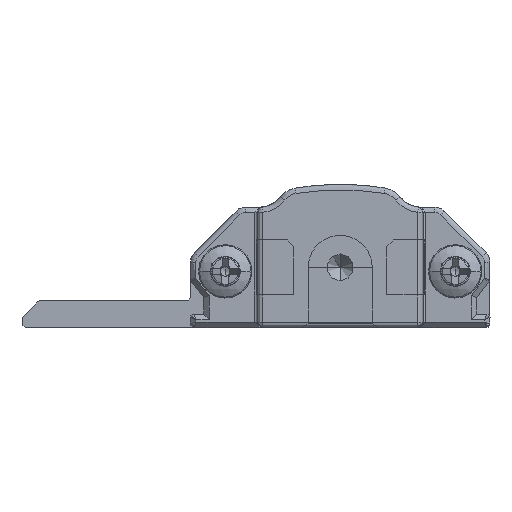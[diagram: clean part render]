
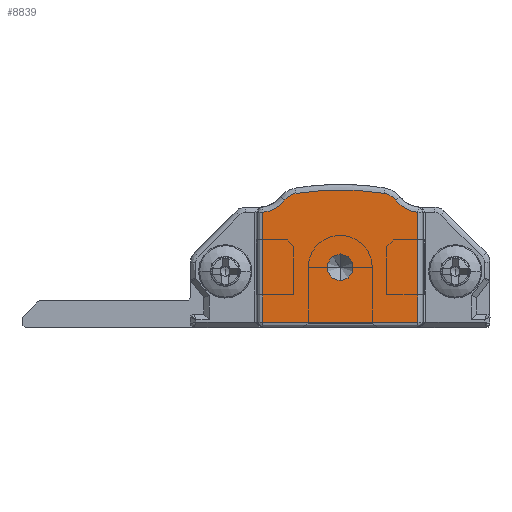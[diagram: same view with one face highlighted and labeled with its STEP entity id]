
A CAD part, front view. The second image highlights one B-rep face of the part: STEP entity #8839.
In plain terms, the highlighted planar face has unit normal (0, -1, 0).
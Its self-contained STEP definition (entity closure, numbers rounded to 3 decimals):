
#133 = DIRECTION ( 'NONE',  ( 0., 0., -1. ) ) ;
#345 = DIRECTION ( 'NONE',  ( 0., -1., 0. ) ) ;
#644 = CARTESIAN_POINT ( 'NONE',  ( 11.2, -15., -10.376 ) ) ;
#780 = VERTEX_POINT ( 'NONE', #27491 ) ;
#1152 = ORIENTED_EDGE ( 'NONE', *, *, #20422, .T. ) ;
#1367 = VERTEX_POINT ( 'NONE', #30880 ) ;
#3657 = ORIENTED_EDGE ( 'NONE', *, *, #22399, .F. ) ;
#4003 = DIRECTION ( 'NONE',  ( 1., 0., 0. ) ) ;
#5104 = DIRECTION ( 'NONE',  ( 0., 0., -1. ) ) ;
#5224 = DIRECTION ( 'NONE',  ( 0., 1., 0. ) ) ;
#5385 = EDGE_LOOP ( 'NONE', ( #20559, #3657 ) ) ;
#6655 = AXIS2_PLACEMENT_3D ( 'NONE', #29565, #5224, #17503 ) ;
#7160 = EDGE_CURVE ( 'NONE', #1367, #9487, #19834, .T. ) ;
#7484 = CARTESIAN_POINT ( 'NONE',  ( 14.3, -15., 8.75 ) ) ;
#7698 = DIRECTION ( 'NONE',  ( 0., 0., 1. ) ) ;
#7747 = DIRECTION ( 'NONE',  ( 0., 0., -1. ) ) ;
#7980 = CIRCLE ( 'NONE', #25759, 1. ) ;
#8085 = CIRCLE ( 'NONE', #15742, 2.4 ) ;
#8300 = EDGE_CURVE ( 'NONE', #19476, #1367, #15804, .T. ) ;
#8440 = ORIENTED_EDGE ( 'NONE', *, *, #7160, .T. ) ;
#8839 = ADVANCED_FACE ( 'NONE', ( #13293, #17642 ), #17945, .T. ) ;
#8866 = AXIS2_PLACEMENT_3D ( 'NONE', #12932, #18048, #27397 ) ;
#9472 = DIRECTION ( 'NONE',  ( 0., 0., -1. ) ) ;
#9487 = VERTEX_POINT ( 'NONE', #19481 ) ;
#9779 = DIRECTION ( 'NONE',  ( 0., 1., 0. ) ) ;
#9962 = CIRCLE ( 'NONE', #20631, 1.3 ) ;
#11801 = VERTEX_POINT ( 'NONE', #22610 ) ;
#12932 = CARTESIAN_POINT ( 'NONE',  ( 8.1, -15., 8.75 ) ) ;
#13006 = DIRECTION ( 'NONE',  ( 0., 0., -1. ) ) ;
#13147 = CIRCLE ( 'NONE', #31427, 20.676 ) ;
#13222 = LINE ( 'NONE', #13553, #21917 ) ;
#13293 = FACE_OUTER_BOUND ( 'NONE', #16211, .T. ) ;
#13553 = CARTESIAN_POINT ( 'NONE',  ( 5.4, -15., 0.4 ) ) ;
#14155 = EDGE_CURVE ( 'NONE', #26568, #17513, #8085, .T. ) ;
#14420 = CARTESIAN_POINT ( 'NONE',  ( 5.162, -15., 11. ) ) ;
#14464 = VERTEX_POINT ( 'NONE', #28802 ) ;
#15742 = AXIS2_PLACEMENT_3D ( 'NONE', #14420, #9779, #9472 ) ;
#15804 = LINE ( 'NONE', #18229, #24089 ) ;
#16211 = EDGE_LOOP ( 'NONE', ( #8440, #18148, #1152, #21462, #20157, #18706, #20926, #27348 ) ) ;
#17270 = CARTESIAN_POINT ( 'NONE',  ( 15.332, -15., 9.541 ) ) ;
#17355 = CIRCLE ( 'NONE', #30026, 1. ) ;
#17481 = EDGE_CURVE ( 'NONE', #17513, #19476, #13222, .T. ) ;
#17503 = DIRECTION ( 'NONE',  ( 0., 0., -1. ) ) ;
#17513 = VERTEX_POINT ( 'NONE', #25309 ) ;
#17642 = FACE_BOUND ( 'NONE', #5385, .T. ) ;
#17783 = EDGE_CURVE ( 'NONE', #9487, #26760, #20925, .T. ) ;
#17945 = PLANE ( 'NONE',  #22615 ) ;
#18027 = DIRECTION ( 'NONE',  ( 0., 0., -1. ) ) ;
#18048 = DIRECTION ( 'NONE',  ( 0., -1., 0. ) ) ;
#18148 = ORIENTED_EDGE ( 'NONE', *, *, #17783, .T. ) ;
#18229 = CARTESIAN_POINT ( 'NONE',  ( 17., -15., 0.4 ) ) ;
#18706 = ORIENTED_EDGE ( 'NONE', *, *, #14155, .T. ) ;
#18879 = CARTESIAN_POINT ( 'NONE',  ( 22.15, -15., 3.606 ) ) ;
#19476 = VERTEX_POINT ( 'NONE', #23753 ) ;
#19481 = CARTESIAN_POINT ( 'NONE',  ( 17., -15., 8.612 ) ) ;
#19725 = CARTESIAN_POINT ( 'NONE',  ( 11.2, -15., 4.5 ) ) ;
#19810 = DIRECTION ( 'NONE',  ( 0., -1., 0. ) ) ;
#19834 = LINE ( 'NONE', #29508, #22649 ) ;
#20157 = ORIENTED_EDGE ( 'NONE', *, *, #31103, .T. ) ;
#20422 = EDGE_CURVE ( 'NONE', #26760, #14464, #9962, .T. ) ;
#20559 = ORIENTED_EDGE ( 'NONE', *, *, #21308, .F. ) ;
#20631 = AXIS2_PLACEMENT_3D ( 'NONE', #7484, #26911, #5104 ) ;
#20925 = CIRCLE ( 'NONE', #6655, 2.4 ) ;
#20926 = ORIENTED_EDGE ( 'NONE', *, *, #17481, .T. ) ;
#21308 = EDGE_CURVE ( 'NONE', #22263, #11801, #7980, .T. ) ;
#21462 = ORIENTED_EDGE ( 'NONE', *, *, #21814, .T. ) ;
#21814 = EDGE_CURVE ( 'NONE', #14464, #780, #13147, .T. ) ;
#21917 = VECTOR ( 'NONE', #18027, 1000. ) ;
#22263 = VERTEX_POINT ( 'NONE', #28133 ) ;
#22399 = EDGE_CURVE ( 'NONE', #11801, #22263, #17355, .T. ) ;
#22499 = CARTESIAN_POINT ( 'NONE',  ( 11.2, -15., 4.5 ) ) ;
#22610 = CARTESIAN_POINT ( 'NONE',  ( 11.2, -15., 5.5 ) ) ;
#22615 = AXIS2_PLACEMENT_3D ( 'NONE', #18879, #25698, #28705 ) ;
#22649 = VECTOR ( 'NONE', #7698, 1000. ) ;
#23643 = CARTESIAN_POINT ( 'NONE',  ( 7.068, -15., 9.541 ) ) ;
#23753 = CARTESIAN_POINT ( 'NONE',  ( 5.4, -15., 0.4 ) ) ;
#24089 = VECTOR ( 'NONE', #4003, 1000. ) ;
#25309 = CARTESIAN_POINT ( 'NONE',  ( 5.4, -15., 8.612 ) ) ;
#25698 = DIRECTION ( 'NONE',  ( 0., -1., 0. ) ) ;
#25759 = AXIS2_PLACEMENT_3D ( 'NONE', #22499, #19810, #133 ) ;
#26558 = DIRECTION ( 'NONE',  ( 0., -1., 0. ) ) ;
#26568 = VERTEX_POINT ( 'NONE', #23643 ) ;
#26760 = VERTEX_POINT ( 'NONE', #17270 ) ;
#26911 = DIRECTION ( 'NONE',  ( 0., -1., 0. ) ) ;
#27348 = ORIENTED_EDGE ( 'NONE', *, *, #8300, .T. ) ;
#27397 = DIRECTION ( 'NONE',  ( 0., 0., -1. ) ) ;
#27491 = CARTESIAN_POINT ( 'NONE',  ( 7.892, -15., 10.034 ) ) ;
#27662 = CIRCLE ( 'NONE', #8866, 1.3 ) ;
#28133 = CARTESIAN_POINT ( 'NONE',  ( 11.2, -15., 3.5 ) ) ;
#28705 = DIRECTION ( 'NONE',  ( 0., 0., -1. ) ) ;
#28802 = CARTESIAN_POINT ( 'NONE',  ( 14.508, -15., 10.034 ) ) ;
#29508 = CARTESIAN_POINT ( 'NONE',  ( 17., -15., 8.612 ) ) ;
#29565 = CARTESIAN_POINT ( 'NONE',  ( 17.238, -15., 11. ) ) ;
#30026 = AXIS2_PLACEMENT_3D ( 'NONE', #19725, #26558, #7747 ) ;
#30880 = CARTESIAN_POINT ( 'NONE',  ( 17., -15., 0.4 ) ) ;
#31103 = EDGE_CURVE ( 'NONE', #780, #26568, #27662, .T. ) ;
#31427 = AXIS2_PLACEMENT_3D ( 'NONE', #644, #345, #13006 ) ;
